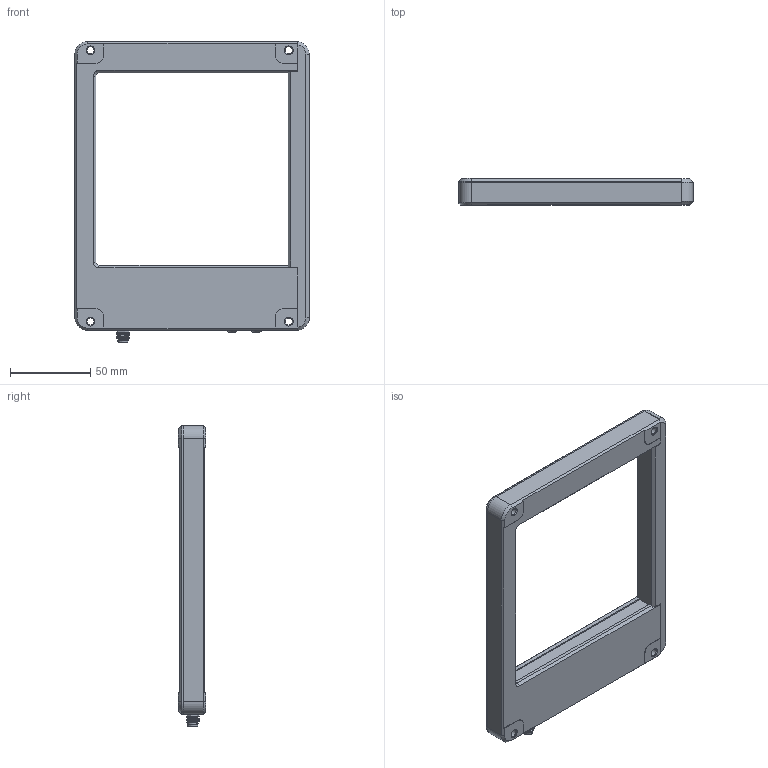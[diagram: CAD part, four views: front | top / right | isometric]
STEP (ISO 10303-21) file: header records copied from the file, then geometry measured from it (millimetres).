
FILE_DESCRIPTION(/* description */ (''),/* implementation_level */ '2;1');
FILE_NAME(/* name */ 'F:\HUAYIFENG\01)HUAYIFENG_宣传文件\01)HUAYIFENG_\X2\5BA34F2065874EF6\X0\_产品资料整合\03)产品3D文档\02)产品3D_光电系列_K12_2019\10)HS系列_3D\HS_W120.stp',/* time_stamp */ '2019-07-02T14:01:11+08:00',/* author */ ('fengjiarun'),/* organization */ (''),/* preprocessor_version */ 'ST-DEVELOPER v16.5',/* originating_system */ 'Autodesk Inventor 2017',/* authorisation */ '');
FILE_SCHEMA (('AUTOMOTIVE_DESIGN { 1 0 10303 214 3 1 1 }'));
Length unit declared in the file: millimetre
Products named in the file (1): 零件1
Bounding box: 146 x 17 x 187.5 mm (x, y, z)
Volume: 180570.4 mm3; surface area: 49482.5 mm2
Topology: 1 solids, 21 shells, 432 faces, 1106 edges, 713 vertices
Faces by surface type: plane 269, cylinder 107, cone 41, bspline 10, sphere 3, torus 2
Full cylindrical faces by diameter (mm): 0.8 x3, 1.5 x2, 2.5 x4, 3 x6, 3.05 x1, 3.2 x4, 3.3 x2, 4.5 x8, 5 x2, 5.5 x1, 5.75 x2, 6 x5, 6.4 x4
Entity records: 16626 total; most frequent: CARTESIAN_POINT 6159, DIRECTION 2056, ORIENTED_EDGE 1960, EDGE_CURVE 980, AXIS2_PLACEMENT_3D 687, LINE 682, VECTOR 682, VERTEX_POINT 665
